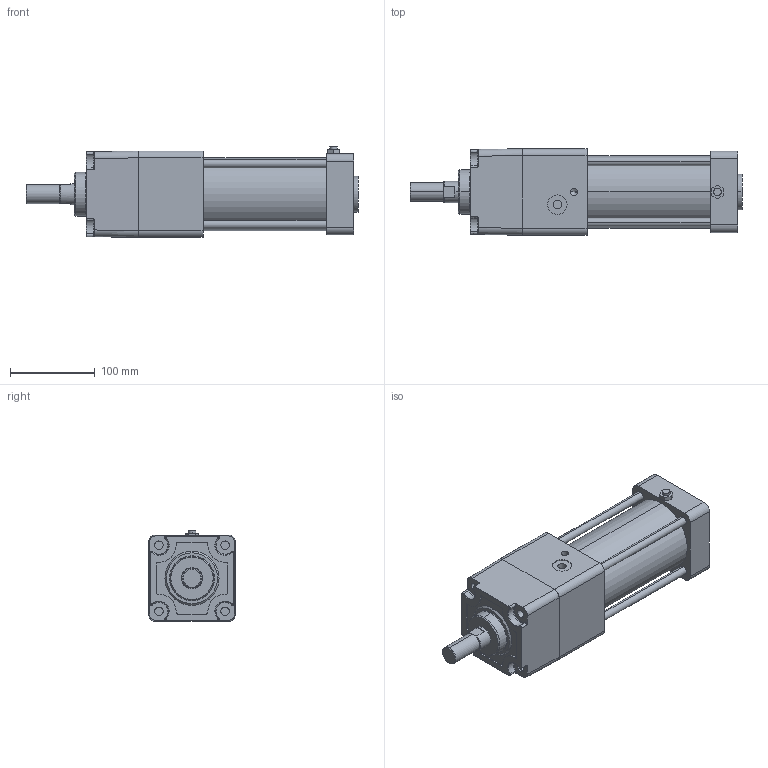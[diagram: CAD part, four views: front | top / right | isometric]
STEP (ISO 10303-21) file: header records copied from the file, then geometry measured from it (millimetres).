
FILE_DESCRIPTION (( 'STEP AP203' ), '1' );
FILE_NAME ('KGSP2-80-100-N.STEP', '2016-04-20T08:00:52', ( '' ), ( '' ), 'SwSTEP 2.0', 'SolidWorks 2014', '' );
FILE_SCHEMA (( 'CONFIG_CONTROL_DESIGN' ));
Length unit declared in the file: millimetre
Products named in the file (7): KGSP2-80-Mi; KGSP2-80-100; KGSP2-80-100-N; KG2-80-After; KGSP2-80-Before
Assembly tree (12 placements, depth 2):
  KGSP2-80-100-N
    KGSP2-80-Before
    KGSP2-80-Mi
    KGSP2-80-100
    KG2-80-After
    (unnamed)  x4
    (unnamed)  x4
Bounding box: 392 x 102 x 107.3 mm (x, y, z)
Volume: 2538644.2 mm3; surface area: 250603.7 mm2
Topology: 12 solids, 12 shells, 332 faces, 793 edges, 494 vertices
Faces by surface type: cylinder 132, plane 104, cone 42, torus 30, bspline 24
Entity records: 10812 total; most frequent: CARTESIAN_POINT 3224, DIRECTION 1458, ORIENTED_EDGE 1370, EDGE_CURVE 685, AXIS2_PLACEMENT_3D 579, VERTEX_POINT 440, EDGE_LOOP 329, CIRCLE 304
